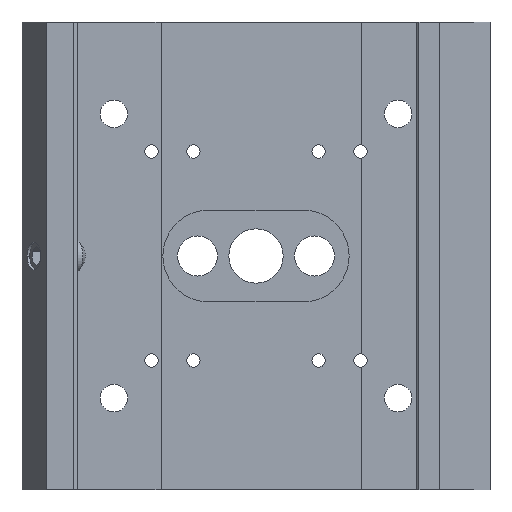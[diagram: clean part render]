
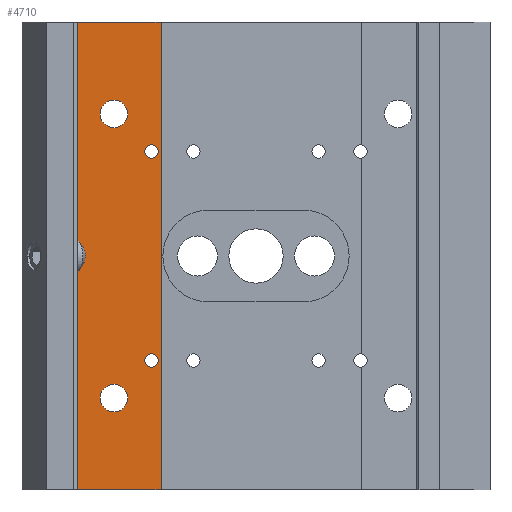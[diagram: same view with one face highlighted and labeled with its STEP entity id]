
A CAD part, front view. The second image highlights one B-rep face of the part: STEP entity #4710.
In plain terms, the highlighted planar face has unit normal (0, -1, 0).
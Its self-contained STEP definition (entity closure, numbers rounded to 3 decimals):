
#36 = CIRCLE ( 'NONE', #2554, 1.65 ) ;
#42 = FACE_BOUND ( 'NONE', #402, .T. ) ;
#124 = CARTESIAN_POINT ( 'NONE',  ( -28.27, 5.036, 37.35 ) ) ;
#134 = EDGE_CURVE ( 'NONE', #671, #5057, #864, .T. ) ;
#201 = AXIS2_PLACEMENT_3D ( 'NONE', #2362, #4355, #3084 ) ;
#235 = CIRCLE ( 'NONE', #201, 1.65 ) ;
#237 = FACE_BOUND ( 'NONE', #4885, .T. ) ;
#274 = CARTESIAN_POINT ( 'NONE',  ( -28.27, 5.036, 71.35 ) ) ;
#327 = DIRECTION ( 'NONE',  ( 0., 0., 1. ) ) ;
#402 = EDGE_LOOP ( 'NONE', ( #739, #1291 ) ) ;
#428 = DIRECTION ( 'NONE',  ( 0., 0., 1. ) ) ;
#489 = DIRECTION ( 'NONE',  ( 0., 1., 0. ) ) ;
#532 = CARTESIAN_POINT ( 'NONE',  ( -22.633, 5.036, 84. ) ) ;
#599 = VECTOR ( 'NONE', #2184, 1000. ) ;
#668 = EDGE_CURVE ( 'NONE', #1194, #3132, #1595, .T. ) ;
#671 = VERTEX_POINT ( 'NONE', #532 ) ;
#736 = EDGE_LOOP ( 'NONE', ( #2819, #1116 ) ) ;
#739 = ORIENTED_EDGE ( 'NONE', *, *, #5046, .T. ) ;
#825 = CARTESIAN_POINT ( 'NONE',  ( -23.77, 5.036, 44.3 ) ) ;
#829 = DIRECTION ( 'NONE',  ( 0., 1., 0. ) ) ;
#864 = LINE ( 'NONE', #941, #599 ) ;
#905 = DIRECTION ( 'NONE',  ( 0., 0., 1. ) ) ;
#937 = EDGE_LOOP ( 'NONE', ( #2524, #2222, #3941, #2206 ) ) ;
#941 = CARTESIAN_POINT ( 'NONE',  ( -32.633, 5.036, 84. ) ) ;
#1032 = DIRECTION ( 'NONE',  ( 0., 0., 1. ) ) ;
#1073 = FACE_BOUND ( 'NONE', #3316, .T. ) ;
#1100 = PLANE ( 'NONE',  #3833 ) ;
#1116 = ORIENTED_EDGE ( 'NONE', *, *, #1357, .T. ) ;
#1129 = VERTEX_POINT ( 'NONE', #124 ) ;
#1154 = CARTESIAN_POINT ( 'NONE',  ( -28.27, 5.036, 74.65 ) ) ;
#1192 = VERTEX_POINT ( 'NONE', #2523 ) ;
#1194 = VERTEX_POINT ( 'NONE', #3401 ) ;
#1225 = CARTESIAN_POINT ( 'NONE',  ( -28.27, 5.036, 39. ) ) ;
#1267 = CIRCLE ( 'NONE', #1408, 0.8 ) ;
#1290 = AXIS2_PLACEMENT_3D ( 'NONE', #5094, #2164, #3843 ) ;
#1291 = ORIENTED_EDGE ( 'NONE', *, *, #4019, .T. ) ;
#1346 = LINE ( 'NONE', #1808, #2586 ) ;
#1347 = VERTEX_POINT ( 'NONE', #1843 ) ;
#1357 = EDGE_CURVE ( 'NONE', #1437, #4932, #235, .T. ) ;
#1380 = EDGE_CURVE ( 'NONE', #4932, #1437, #36, .T. ) ;
#1389 = VERTEX_POINT ( 'NONE', #5227 ) ;
#1408 = AXIS2_PLACEMENT_3D ( 'NONE', #3303, #829, #428 ) ;
#1414 = EDGE_CURVE ( 'NONE', #1389, #5340, #3271, .T. ) ;
#1437 = VERTEX_POINT ( 'NONE', #274 ) ;
#1458 = FACE_BOUND ( 'NONE', #736, .T. ) ;
#1468 = DIRECTION ( 'NONE',  ( -1., 0., 0. ) ) ;
#1595 = CIRCLE ( 'NONE', #1290, 0.8 ) ;
#1603 = CIRCLE ( 'NONE', #3209, 1.65 ) ;
#1774 = VECTOR ( 'NONE', #1468, 1000. ) ;
#1787 = AXIS2_PLACEMENT_3D ( 'NONE', #2955, #489, #905 ) ;
#1808 = CARTESIAN_POINT ( 'NONE',  ( -32.633, 5.036, 28. ) ) ;
#1843 = CARTESIAN_POINT ( 'NONE',  ( -23.77, 5.036, 69.3 ) ) ;
#1922 = DIRECTION ( 'NONE',  ( 0., 1., 0. ) ) ;
#2012 = CARTESIAN_POINT ( 'NONE',  ( -23.77, 5.036, 43.5 ) ) ;
#2164 = DIRECTION ( 'NONE',  ( 0., 1., 0. ) ) ;
#2184 = DIRECTION ( 'NONE',  ( -1., 0., 0. ) ) ;
#2206 = ORIENTED_EDGE ( 'NONE', *, *, #4830, .T. ) ;
#2222 = ORIENTED_EDGE ( 'NONE', *, *, #3435, .F. ) ;
#2362 = CARTESIAN_POINT ( 'NONE',  ( -28.27, 5.036, 73. ) ) ;
#2389 = AXIS2_PLACEMENT_3D ( 'NONE', #2012, #2849, #2803 ) ;
#2523 = CARTESIAN_POINT ( 'NONE',  ( -28.27, 5.036, 40.65 ) ) ;
#2524 = ORIENTED_EDGE ( 'NONE', *, *, #134, .T. ) ;
#2554 = AXIS2_PLACEMENT_3D ( 'NONE', #5241, #1922, #1032 ) ;
#2586 = VECTOR ( 'NONE', #3472, 1000. ) ;
#2605 = ORIENTED_EDGE ( 'NONE', *, *, #3046, .T. ) ;
#2744 = CARTESIAN_POINT ( 'NONE',  ( -32.633, 5.036, 28. ) ) ;
#2803 = DIRECTION ( 'NONE',  ( 0., 0., 1. ) ) ;
#2819 = ORIENTED_EDGE ( 'NONE', *, *, #1380, .T. ) ;
#2849 = DIRECTION ( 'NONE',  ( 0., 1., 0. ) ) ;
#2884 = LINE ( 'NONE', #3370, #3333 ) ;
#2955 = CARTESIAN_POINT ( 'NONE',  ( -23.77, 5.036, 68.5 ) ) ;
#2989 = CARTESIAN_POINT ( 'NONE',  ( -23.77, 5.036, 67.7 ) ) ;
#3046 = EDGE_CURVE ( 'NONE', #3132, #1194, #4261, .T. ) ;
#3084 = DIRECTION ( 'NONE',  ( 0., 0., 1. ) ) ;
#3132 = VERTEX_POINT ( 'NONE', #825 ) ;
#3209 = AXIS2_PLACEMENT_3D ( 'NONE', #4650, #3388, #4215 ) ;
#3271 = LINE ( 'NONE', #2744, #1774 ) ;
#3303 = CARTESIAN_POINT ( 'NONE',  ( -23.77, 5.036, 68.5 ) ) ;
#3316 = EDGE_LOOP ( 'NONE', ( #4351, #5356 ) ) ;
#3324 = CARTESIAN_POINT ( 'NONE',  ( -32.633, 5.036, 84. ) ) ;
#3329 = EDGE_CURVE ( 'NONE', #1129, #1192, #1603, .T. ) ;
#3333 = VECTOR ( 'NONE', #4953, 1000. ) ;
#3366 = ORIENTED_EDGE ( 'NONE', *, *, #668, .T. ) ;
#3370 = CARTESIAN_POINT ( 'NONE',  ( -22.633, 5.036, 28. ) ) ;
#3382 = AXIS2_PLACEMENT_3D ( 'NONE', #1225, #4530, #327 ) ;
#3388 = DIRECTION ( 'NONE',  ( 0., 1., 0. ) ) ;
#3401 = CARTESIAN_POINT ( 'NONE',  ( -23.77, 5.036, 42.7 ) ) ;
#3435 = EDGE_CURVE ( 'NONE', #5340, #5057, #1346, .T. ) ;
#3472 = DIRECTION ( 'NONE',  ( 0., 0., 1. ) ) ;
#3538 = CARTESIAN_POINT ( 'NONE',  ( -32.633, 5.036, 28. ) ) ;
#3613 = CARTESIAN_POINT ( 'NONE',  ( -32.633, 5.036, 28. ) ) ;
#3786 = FACE_OUTER_BOUND ( 'NONE', #937, .T. ) ;
#3833 = AXIS2_PLACEMENT_3D ( 'NONE', #3613, #4003, #3992 ) ;
#3843 = DIRECTION ( 'NONE',  ( 0., 0., 1. ) ) ;
#3941 = ORIENTED_EDGE ( 'NONE', *, *, #1414, .F. ) ;
#3985 = CIRCLE ( 'NONE', #3382, 1.65 ) ;
#3992 = DIRECTION ( 'NONE',  ( 0., 0., 1. ) ) ;
#3994 = CIRCLE ( 'NONE', #1787, 0.8 ) ;
#4003 = DIRECTION ( 'NONE',  ( 0., 1., 0. ) ) ;
#4019 = EDGE_CURVE ( 'NONE', #4692, #1347, #3994, .T. ) ;
#4215 = DIRECTION ( 'NONE',  ( 0., 0., 1. ) ) ;
#4261 = CIRCLE ( 'NONE', #2389, 0.8 ) ;
#4351 = ORIENTED_EDGE ( 'NONE', *, *, #4951, .T. ) ;
#4355 = DIRECTION ( 'NONE',  ( 0., 1., 0. ) ) ;
#4530 = DIRECTION ( 'NONE',  ( 0., 1., 0. ) ) ;
#4650 = CARTESIAN_POINT ( 'NONE',  ( -28.27, 5.036, 39. ) ) ;
#4692 = VERTEX_POINT ( 'NONE', #2989 ) ;
#4710 = ADVANCED_FACE ( 'NONE', ( #1073, #1458, #237, #42, #3786 ), #1100, .F. ) ;
#4830 = EDGE_CURVE ( 'NONE', #1389, #671, #2884, .T. ) ;
#4885 = EDGE_LOOP ( 'NONE', ( #2605, #3366 ) ) ;
#4932 = VERTEX_POINT ( 'NONE', #1154 ) ;
#4951 = EDGE_CURVE ( 'NONE', #1192, #1129, #3985, .T. ) ;
#4953 = DIRECTION ( 'NONE',  ( 0., 0., 1. ) ) ;
#5046 = EDGE_CURVE ( 'NONE', #1347, #4692, #1267, .T. ) ;
#5057 = VERTEX_POINT ( 'NONE', #3324 ) ;
#5094 = CARTESIAN_POINT ( 'NONE',  ( -23.77, 5.036, 43.5 ) ) ;
#5227 = CARTESIAN_POINT ( 'NONE',  ( -22.633, 5.036, 28. ) ) ;
#5241 = CARTESIAN_POINT ( 'NONE',  ( -28.27, 5.036, 73. ) ) ;
#5340 = VERTEX_POINT ( 'NONE', #3538 ) ;
#5356 = ORIENTED_EDGE ( 'NONE', *, *, #3329, .T. ) ;
